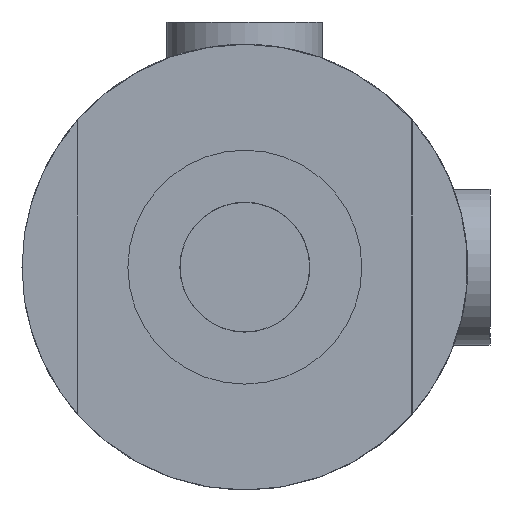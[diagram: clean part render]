
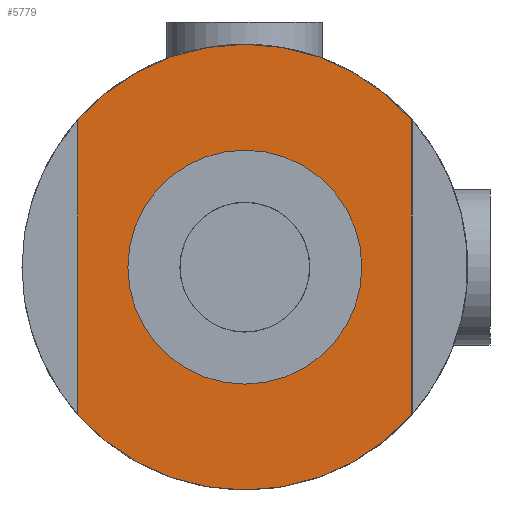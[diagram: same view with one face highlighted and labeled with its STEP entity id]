
A CAD part, left-side view. The second image highlights one B-rep face of the part: STEP entity #5779.
In plain terms, the highlighted planar face has unit normal (-1, 0, 0) as drawn and (1, 0, 0) by its records, which use the part's own axes.
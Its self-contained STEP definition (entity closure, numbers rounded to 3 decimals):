
#618=FACE_BOUND('',#1164,.T.);
#672=PLANE('',#6209);
#818=FACE_OUTER_BOUND('',#1163,.T.);
#1163=EDGE_LOOP('',(#4053,#4054,#4055,#4056));
#1164=EDGE_LOOP('',(#4057));
#1540=LINE('',#8081,#1953);
#1544=LINE('',#8094,#1957);
#1953=VECTOR('',#6717,10.);
#1957=VECTOR('',#6729,10.);
#2366=CIRCLE('',#6193,10.5);
#2376=CIRCLE('',#6210,20.);
#2377=CIRCLE('',#6211,20.);
#2567=VERTEX_POINT('',#8059);
#2574=VERTEX_POINT('',#8079);
#2575=VERTEX_POINT('',#8080);
#2579=VERTEX_POINT('',#8092);
#2580=VERTEX_POINT('',#8093);
#3143=EDGE_CURVE('',#2567,#2567,#2366,.T.);
#3153=EDGE_CURVE('',#2574,#2575,#1540,.T.);
#3159=EDGE_CURVE('',#2579,#2580,#1544,.T.);
#3164=EDGE_CURVE('',#2575,#2579,#2376,.T.);
#3165=EDGE_CURVE('',#2580,#2574,#2377,.T.);
#4053=ORIENTED_EDGE('',*,*,#3153,.T.);
#4054=ORIENTED_EDGE('',*,*,#3164,.T.);
#4055=ORIENTED_EDGE('',*,*,#3159,.T.);
#4056=ORIENTED_EDGE('',*,*,#3165,.T.);
#4057=ORIENTED_EDGE('',*,*,#3143,.T.);
#5779=ADVANCED_FACE('',(#818,#618),#672,.F.);
#6193=AXIS2_PLACEMENT_3D('',#8060,#6694,#6695);
#6209=AXIS2_PLACEMENT_3D('',#8102,#6737,#6738);
#6210=AXIS2_PLACEMENT_3D('',#8103,#6739,#6740);
#6211=AXIS2_PLACEMENT_3D('',#8104,#6741,#6742);
#6694=DIRECTION('center_axis',(-1.,0.,0.));
#6695=DIRECTION('ref_axis',(0.,0.,-1.));
#6717=DIRECTION('',(0.,1.,0.));
#6729=DIRECTION('',(0.,-1.,0.));
#6737=DIRECTION('center_axis',(-1.,0.,0.));
#6738=DIRECTION('ref_axis',(0.,0.,1.));
#6739=DIRECTION('center_axis',(1.,0.,0.));
#6740=DIRECTION('ref_axis',(0.,0.,1.));
#6741=DIRECTION('center_axis',(1.,0.,0.));
#6742=DIRECTION('ref_axis',(0.,0.,1.));
#8059=CARTESIAN_POINT('',(34.,0.,10.5));
#8060=CARTESIAN_POINT('Origin',(34.,0.,0.));
#8079=CARTESIAN_POINT('',(34.,-13.229,-15.));
#8080=CARTESIAN_POINT('',(34.,13.229,-15.));
#8081=CARTESIAN_POINT('',(34.,-6.614,-15.));
#8092=CARTESIAN_POINT('',(34.,13.229,15.));
#8093=CARTESIAN_POINT('',(34.,-13.229,15.));
#8094=CARTESIAN_POINT('',(34.,6.614,15.));
#8102=CARTESIAN_POINT('Origin',(34.,0.,0.));
#8103=CARTESIAN_POINT('Origin',(34.,0.,0.));
#8104=CARTESIAN_POINT('Origin',(34.,0.,0.));
